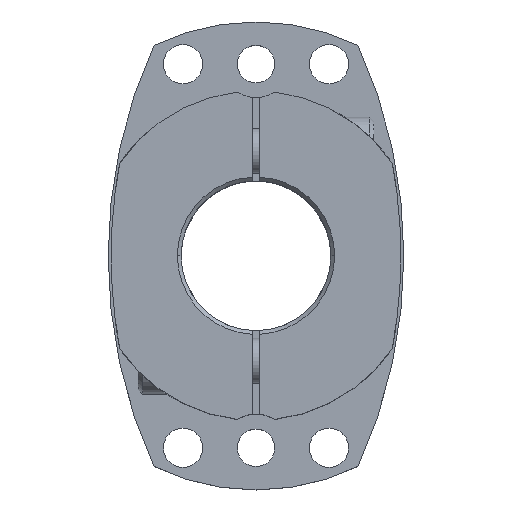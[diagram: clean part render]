
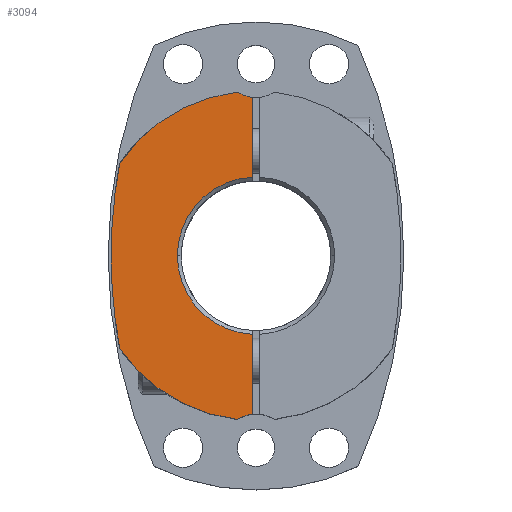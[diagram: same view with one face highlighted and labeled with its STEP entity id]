
A CAD part, top view. The second image highlights one B-rep face of the part: STEP entity #3094.
In plain terms, the highlighted planar face has unit normal (0, 0, 1).
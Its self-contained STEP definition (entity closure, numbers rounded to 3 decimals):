
#412=CARTESIAN_POINT('',(-21.,0.,36.0));
#413=VERTEX_POINT('',#412);
#421=CARTESIAN_POINT('',(-1.,20.976,36.0));
#422=VERTEX_POINT('',#421);
#436=CARTESIAN_POINT('',(0.,0.,36.0));
#437=DIRECTION('',(0.0,0.0,1.0));
#438=DIRECTION('',(-1.0,0.0,0.0));
#439=AXIS2_PLACEMENT_3D('',#436,#437,#438);
#440=CIRCLE('',#439,21.0);
#441=EDGE_CURVE('',#422,#413,#440,.T.);
#451=CARTESIAN_POINT('',(-38.7,0.,36.0));
#452=VERTEX_POINT('',#451);
#461=CARTESIAN_POINT('',(-36.405,24.712,36.0));
#462=VERTEX_POINT('',#461);
#463=CARTESIAN_POINT('',(95.5,0.,36.0));
#464=DIRECTION('',(0.0,0.0,-1.0));
#465=DIRECTION('',(1.0,0.0,0.0));
#466=AXIS2_PLACEMENT_3D('',#463,#464,#465);
#467=CIRCLE('',#466,134.2);
#468=EDGE_CURVE('',#452,#462,#467,.T.);
#2005=CARTESIAN_POINT('',(-4.933,-43.723,36.0));
#2006=VERTEX_POINT('',#2005);
#2013=CARTESIAN_POINT('',(-36.405,-24.712,36.0));
#2014=VERTEX_POINT('',#2013);
#2015=CARTESIAN_POINT('',(0.,0.,36.0));
#2016=DIRECTION('',(0.0,0.0,-1.0));
#2017=DIRECTION('',(1.0,0.0,0.0));
#2018=AXIS2_PLACEMENT_3D('',#2015,#2016,#2017);
#2019=CIRCLE('',#2018,44.);
#2020=EDGE_CURVE('',#2006,#2014,#2019,.T.);
#2654=CARTESIAN_POINT('',(95.5,0.,36.0));
#2655=DIRECTION('',(0.0,0.0,-1.0));
#2656=DIRECTION('',(1.0,0.0,0.0));
#2657=AXIS2_PLACEMENT_3D('',#2654,#2655,#2656);
#2658=CIRCLE('',#2657,134.2);
#2659=EDGE_CURVE('',#2014,#452,#2658,.T.);
#2704=CARTESIAN_POINT('',(-1.,42.306,36.0));
#2705=VERTEX_POINT('',#2704);
#2721=CARTESIAN_POINT('',(-4.933,43.723,36.0));
#2722=VERTEX_POINT('',#2721);
#2729=CARTESIAN_POINT('',(0.,51.25,36.0));
#2730=DIRECTION('',(0.0,0.0,-1.0));
#2731=DIRECTION('',(1.0,0.0,0.0));
#2732=AXIS2_PLACEMENT_3D('',#2729,#2730,#2731);
#2733=CIRCLE('',#2732,9.0);
#2734=EDGE_CURVE('',#2705,#2722,#2733,.T.);
#2796=CARTESIAN_POINT('',(-1.,-42.306,36.0));
#2797=VERTEX_POINT('',#2796);
#2804=CARTESIAN_POINT('',(0.,-51.25,36.0));
#2805=DIRECTION('',(0.0,0.0,-1.0));
#2806=DIRECTION('',(1.0,0.0,0.0));
#2807=AXIS2_PLACEMENT_3D('',#2804,#2805,#2806);
#2808=CIRCLE('',#2807,9.0);
#2809=EDGE_CURVE('',#2006,#2797,#2808,.T.);
#2928=CARTESIAN_POINT('',(-1.,20.976,36.0));
#2929=DIRECTION('',(0.0,1.0,0.0));
#2930=VECTOR('',#2929,21.33);
#2931=LINE('',#2928,#2930);
#2932=EDGE_CURVE('',#422,#2705,#2931,.T.);
#3058=CARTESIAN_POINT('',(0.,0.,36.0));
#3059=DIRECTION('',(0.0,0.0,1.0));
#3060=DIRECTION('',(1.0,0.0,0.0));
#3061=AXIS2_PLACEMENT_3D('',#3058,#3059,#3060);
#3062=PLANE('',#3061);
#3063=ORIENTED_EDGE('',*,*,#2734,.T.);
#3064=CARTESIAN_POINT('',(0.,0.,36.0));
#3065=DIRECTION('',(0.0,0.0,-1.0));
#3066=DIRECTION('',(1.0,0.0,0.0));
#3067=AXIS2_PLACEMENT_3D('',#3064,#3065,#3066);
#3068=CIRCLE('',#3067,44.);
#3069=EDGE_CURVE('',#462,#2722,#3068,.T.);
#3070=ORIENTED_EDGE('',*,*,#3069,.F.);
#3071=ORIENTED_EDGE('',*,*,#468,.F.);
#3072=ORIENTED_EDGE('',*,*,#2659,.F.);
#3073=ORIENTED_EDGE('',*,*,#2020,.F.);
#3074=ORIENTED_EDGE('',*,*,#2809,.T.);
#3075=CARTESIAN_POINT('',(-1.,-20.976,36.0));
#3076=VERTEX_POINT('',#3075);
#3077=CARTESIAN_POINT('',(-1.,-42.306,36.0));
#3078=DIRECTION('',(0.0,1.0,0.0));
#3079=VECTOR('',#3078,21.33);
#3080=LINE('',#3077,#3079);
#3081=EDGE_CURVE('',#2797,#3076,#3080,.T.);
#3082=ORIENTED_EDGE('',*,*,#3081,.T.);
#3083=CARTESIAN_POINT('',(0.,0.,36.0));
#3084=DIRECTION('',(0.0,0.0,1.0));
#3085=DIRECTION('',(-1.0,0.0,0.0));
#3086=AXIS2_PLACEMENT_3D('',#3083,#3084,#3085);
#3087=CIRCLE('',#3086,21.0);
#3088=EDGE_CURVE('',#413,#3076,#3087,.T.);
#3089=ORIENTED_EDGE('',*,*,#3088,.F.);
#3090=ORIENTED_EDGE('',*,*,#441,.F.);
#3091=ORIENTED_EDGE('',*,*,#2932,.T.);
#3092=EDGE_LOOP('',(#3063,#3070,#3071,#3072,#3073,#3074,#3082,#3089,#3090,#3091));
#3093=FACE_OUTER_BOUND('',#3092,.T.);
#3094=ADVANCED_FACE('',(#3093),#3062,.T.);
